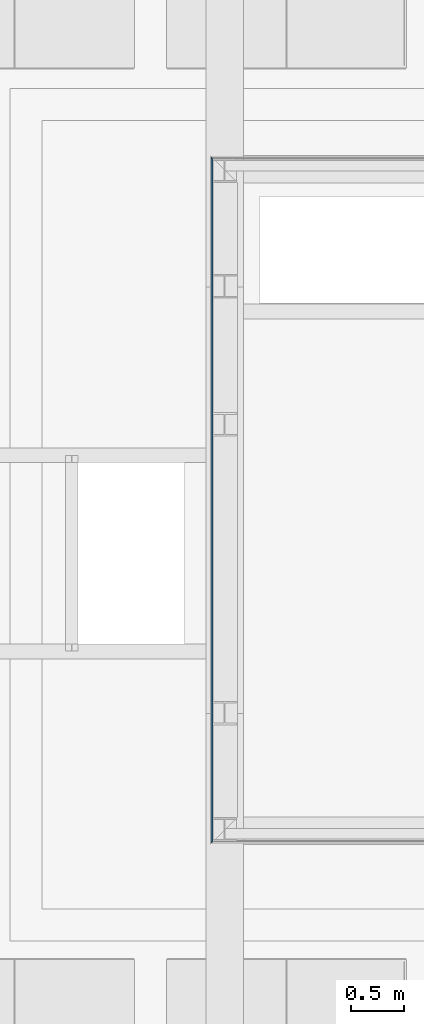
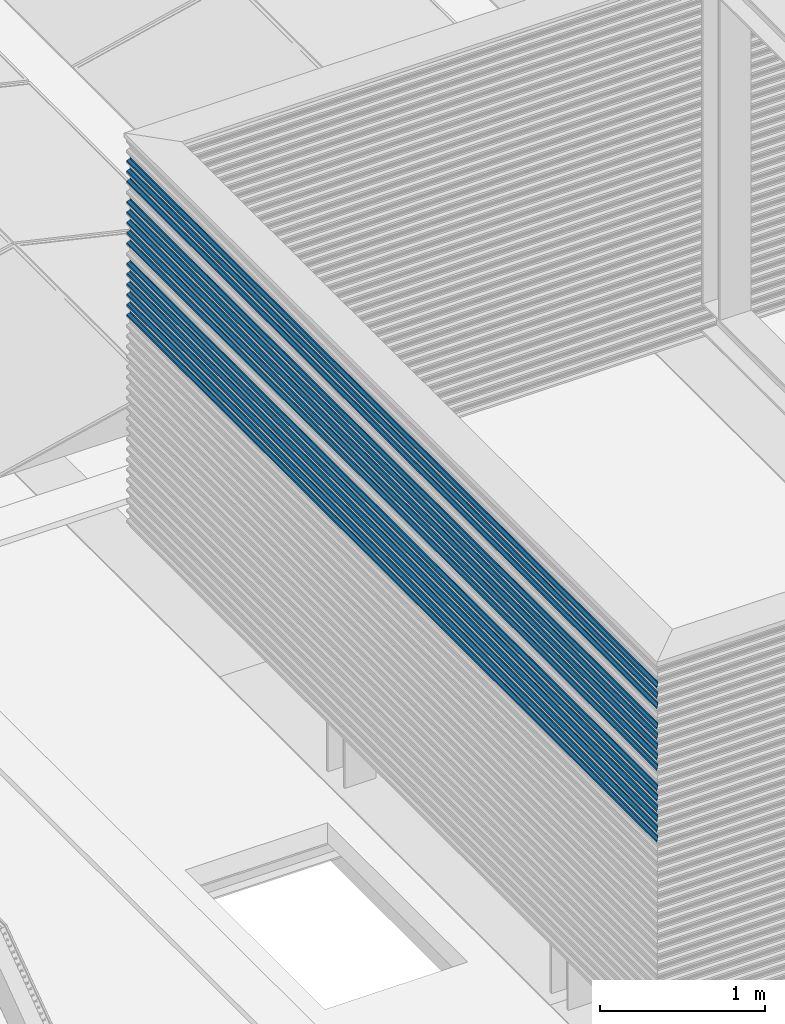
# One storey, part 27 of 63: 14 building element parts, 1 element without a shape of its own.
"""IFC2X3 building model written with IfcOpenShell, lengths in millimetres."""

from ifc_helpers import new_model, entity, si_unit, converted_unit, derived_unit, money_unit, direction, frame, origin_with_axes, place, context, subcontext, project, spatial, faceted_brep, material, type_object, element, aggregate, save


model = new_model("IFC2X3")

# Units and contexts
model_context = context("Model", 3, precision=0.01, world=origin_with_axes(), true_north=direction((0.0, 1.0)))
body_context = subcontext(model_context, "Body", "Model", "MODEL_VIEW")
ifc_project = project(units=[si_unit("LENGTHUNIT", "METRE", prefix="MILLI"), si_unit("AREAUNIT", "SQUARE_METRE"), si_unit("VOLUMEUNIT", "CUBIC_METRE"), converted_unit("PLANEANGLEUNIT", "DEGREE", entity("IfcPlaneAngleMeasure", 0.0174532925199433), si_unit("PLANEANGLEUNIT", "RADIAN"), dimensions=[0, 0, 0, 0, 0, 0, 0]), money_unit("EUR"), converted_unit("TIMEUNIT", "Year", entity("IfcTimeMeasure", 31557600.0), si_unit("TIMEUNIT", "SECOND"), dimensions=[0, 0, 1, 0, 0, 0, 0]), si_unit("MASSUNIT", "GRAM", prefix="KILO"), si_unit("THERMODYNAMICTEMPERATUREUNIT", "DEGREE_CELSIUS"), si_unit("LUMINOUSINTENSITYUNIT", "LUMEN"), si_unit("ENERGYUNIT", "JOULE", prefix="MEGA"), derived_unit("THERMALCONDUCTANCEUNIT", [(si_unit("POWERUNIT", "WATT"), 1), (si_unit("LENGTHUNIT", "METRE"), -1), (si_unit("THERMODYNAMICTEMPERATUREUNIT", "KELVIN"), -1)]), derived_unit("SPECIFICHEATCAPACITYUNIT", [(si_unit("ENERGYUNIT", "JOULE"), 1), (si_unit("MASSUNIT", "GRAM", prefix="KILO"), -1), (si_unit("THERMODYNAMICTEMPERATUREUNIT", "KELVIN"), -1)]), derived_unit("MASSDENSITYUNIT", [(si_unit("MASSUNIT", "GRAM", prefix="KILO"), 1), (si_unit("VOLUMEUNIT", "CUBIC_METRE"), -1)])], contexts=[model_context])

# Site, building, storey
site_placement = place(None, origin_with_axes())
site = spatial("IfcSite", under=ifc_project, at=site_placement, Name="<site naam>", CompositionType="ELEMENT")
building_placement = place(site_placement, origin_with_axes())
building = spatial("IfcBuilding", under=site, at=building_placement, Name="<Naam gebouw>", CompositionType="ELEMENT")
storey_placement = place(building_placement, frame((0.0, 0.0, 12770.0), z_axis=(0.0, 0.0, 1.0), x_axis=(1.0, 0.0, 0.0)))
storey = spatial("IfcBuildingStorey", under=building, at=storey_placement, Name="04 4e verdieping", CompositionType="ELEMENT", Elevation=12770.0)

# Wall, building element parts
wall_type = type_object("IfcWallType", Name="Gevelbeplating golf 18 x 2900", PredefinedType="NOTDEFINED")
wall_placement = place(storey_placement, frame((15871.99992141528, 13218.00009009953, 299.9552842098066), z_axis=(0.0, 0.0, 1.0), x_axis=(0.0, -1.0, 0.0)))
wall = element("IfcWall", 1, at=wall_placement, inside=storey, type_object=wall_type, Name="47_Binnenwand_Gevelbeplating")
ifc_material = material(Name="gevelafwerking type 3 - Aluminium RAL1036")
building_element_part_1_placement = place(wall_placement, origin_with_axes())
building_element_part_1 = element("IfcBuildingElementPart", 2, at=building_element_part_1_placement, material=ifc_material, Name="gevelafwerking type 3 - Aluminium RAL1036", context=body_context, shape_type="Brep", body=[
    faceted_brep([(15.62921524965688, 15.62921524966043, 1737.315511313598), (17.99995237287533, 17.99995237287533, 1747.999999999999), (6418.000216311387, 17.99995237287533, 1747.999999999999), (6420.370953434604, 15.62921524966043, 1737.315511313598), (17.99995237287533, 16.999949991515, 1747.999999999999), (15.62921524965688, 14.54417602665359, 1737.315511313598), (15.69995553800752, 14.7751494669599, 1737.634325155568), (6418.000216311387, 16.9999499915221, 1747.999999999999), (6420.370953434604, 14.54417602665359, 1737.315511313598), (6420.300213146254, 14.7751494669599, 1737.634325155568), (9.041536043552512, 9.041536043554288, 1728.575878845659), (6426.95863264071, 9.041536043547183, 1728.575878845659), (9.041536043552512, 8.2094919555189, 1728.575878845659), (9.398086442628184, 8.555204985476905, 1729.048901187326), (6426.602082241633, 8.555204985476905, 1729.048901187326), (6426.95863264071, 8.2094919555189, 1728.575878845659), (3.11643076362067, 3.116430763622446, 1720.112325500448), (6432.883737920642, 3.116430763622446, 1720.112325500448), (3.11643076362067, 2.188178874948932, 1720.112325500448), (3.340087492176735, 2.257311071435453, 1720.431801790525), (6432.660081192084, 2.257311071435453, 1720.431801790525), (6432.883737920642, 2.188178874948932, 1720.112325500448), (0.9999523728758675, 0.9999523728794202, 1709.999999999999), (6435.000216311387, 0.9999523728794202, 1709.999999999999), (0.9999523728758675, -4.762712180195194e-05, 1709.999999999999), (6435.000216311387, -4.762713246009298e-05, 1709.999999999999)], [[[0, 1, 2, 3]], [[4, 1, 0, 5, 6]], [[1, 4, 7, 2]], [[8, 3, 2, 7, 9]], [[10, 0, 3, 11]], [[0, 10, 12, 13, 5]], [[5, 13, 14, 8, 9, 6]], [[4, 6, 9, 7]], [[15, 11, 3, 8, 14]], [[16, 10, 11, 17]], [[10, 16, 18, 19, 12]], [[12, 19, 20, 15, 14, 13]], [[21, 17, 11, 15, 20]], [[22, 16, 17, 23]], [[16, 22, 24, 18]], [[18, 24, 25, 21, 20, 19]], [[25, 23, 17, 21]], [[24, 22, 23, 25]]]),
])
building_element_part_2_placement = place(wall_placement, origin_with_axes())
building_element_part_2 = element("IfcBuildingElementPart", 3, at=building_element_part_2_placement, material=ifc_material, Name="gevelafwerking type 3 - Aluminium RAL1036", context=body_context, shape_type="Brep", body=[
    faceted_brep([(15.62921286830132, 15.62921286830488, 1813.315511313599), (17.99994999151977, 17.99994999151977, 1824.0), (6418.000218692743, 17.99994999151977, 1824.0), (6420.370955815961, 15.62921286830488, 1813.315511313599), (17.99994999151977, 16.99994761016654, 1824.0), (15.62921286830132, 14.54418552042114, 1813.315511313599), (15.69994951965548, 14.77514708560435, 1813.634308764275), (6418.000218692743, 16.99994761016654, 1824.0), (6420.370955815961, 14.54418552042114, 1813.315511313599), (6420.300219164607, 14.77514708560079, 1813.634308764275), (9.041533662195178, 9.04153366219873, 1804.575878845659), (6426.958635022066, 9.04153366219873, 1804.575878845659), (9.041533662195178, 8.209501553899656, 1804.575878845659), (9.398071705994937, 8.555202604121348, 1805.048884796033), (6426.602096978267, 8.555202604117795, 1805.048884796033), (6426.958635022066, 8.209501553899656, 1804.575878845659), (3.116428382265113, 3.116428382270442, 1796.112325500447), (6432.883740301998, 3.116428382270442, 1796.112325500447), (3.116428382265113, 2.188180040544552, 1796.112325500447), (3.340073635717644, 2.257308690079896, 1796.431785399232), (6432.660095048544, 2.257308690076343, 1796.431785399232), (6432.883740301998, 2.188180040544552, 1796.112325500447), (0.9999499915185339, 0.999949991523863, 1786.0), (6435.000218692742, 0.999949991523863, 1786.0), (0.9999499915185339, -5.000847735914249e-05, 1786.0), (6435.000218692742, -5.000848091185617e-05, 1786.0)], [[[0, 1, 2, 3]], [[4, 1, 0, 5, 6]], [[1, 4, 7, 2]], [[8, 3, 2, 7, 9]], [[10, 0, 3, 11]], [[0, 10, 12, 13, 5]], [[5, 13, 14, 8, 9, 6]], [[4, 6, 9, 7]], [[15, 11, 3, 8, 14]], [[16, 10, 11, 17]], [[10, 16, 18, 19, 12]], [[12, 19, 20, 15, 14, 13]], [[21, 17, 11, 15, 20]], [[22, 16, 17, 23]], [[16, 22, 24, 18]], [[18, 24, 25, 21, 20, 19]], [[25, 23, 17, 21]], [[24, 22, 23, 25]]]),
])
building_element_part_3_placement = place(wall_placement, origin_with_axes())
building_element_part_3 = element("IfcBuildingElementPart", 4, at=building_element_part_3_placement, material=ifc_material, Name="gevelafwerking type 3 - Aluminium RAL1036", context=body_context, shape_type="Brep", body=[
    faceted_brep([(15.62921048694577, 15.62921048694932, 1965.3155113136), (17.99994761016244, 17.99994761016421, 1975.999999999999), (6418.000221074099, 17.99994761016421, 1975.999999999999), (6420.370958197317, 15.62921048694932, 1965.3155113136), (17.99994761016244, 16.99994522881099, 1975.999999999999), (15.62921048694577, 14.54417558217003, 1965.3155113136), (15.699949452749, 14.77514470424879, 1965.634319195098), (6418.000221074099, 16.99994522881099, 1975.999999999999), (6420.370958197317, 14.54417558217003, 1965.3155113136), (6420.300219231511, 14.77514470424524, 1965.634319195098), (9.04153128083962, 9.041531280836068, 1956.575878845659), (6426.958637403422, 9.041531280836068, 1956.575878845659), (9.04153128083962, 8.209491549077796, 1956.575878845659), (9.398077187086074, 8.55520022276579, 1957.048895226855), (6426.602091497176, 8.555200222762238, 1957.048895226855), (6426.958637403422, 8.209491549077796, 1956.575878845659), (3.116426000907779, 3.116426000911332, 1948.112325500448), (6432.883742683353, 3.116426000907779, 1948.112325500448), (3.116426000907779, 2.188175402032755, 1948.112325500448), (3.340078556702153, 2.257306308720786, 1948.431795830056), (6432.660090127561, 2.257306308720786, 1948.431795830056), (6432.883742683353, 2.188175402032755, 1948.112325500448), (0.9999476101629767, 0.9999476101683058, 1937.999999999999), (6435.000221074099, 0.9999476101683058, 1937.999999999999), (0.9999476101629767, -5.238983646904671e-05, 1937.999999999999), (6435.000221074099, -5.238984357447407e-05, 1937.999999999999)], [[[0, 1, 2, 3]], [[4, 1, 0, 5, 6]], [[1, 4, 7, 2]], [[8, 3, 2, 7, 9]], [[10, 0, 3, 11]], [[0, 10, 12, 13, 5]], [[5, 13, 14, 8, 9, 6]], [[4, 6, 9, 7]], [[15, 11, 3, 8, 14]], [[16, 10, 11, 17]], [[10, 16, 18, 19, 12]], [[12, 19, 20, 15, 14, 13]], [[21, 17, 11, 15, 20]], [[22, 16, 17, 23]], [[16, 22, 24, 18]], [[18, 24, 25, 21, 20, 19]], [[25, 23, 17, 21]], [[24, 22, 23, 25]]]),
])
building_element_part_4_placement = place(wall_placement, origin_with_axes())
building_element_part_4 = element("IfcBuildingElementPart", 5, at=building_element_part_4_placement, material=ifc_material, Name="gevelafwerking type 3 - Aluminium RAL1036", context=body_context, shape_type="Brep", body=[
    faceted_brep([(15.62921048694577, 15.62921048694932, 1889.315511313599), (17.99994761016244, 17.99994761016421, 1900.0), (6418.000221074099, 17.99994761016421, 1900.0), (6420.370958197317, 15.62921048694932, 1889.315511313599), (17.99994761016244, 16.99994522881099, 1900.0), (15.62921048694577, 14.54416370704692, 1889.315511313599), (15.69995308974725, 14.77514470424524, 1889.634335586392), (6418.000221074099, 16.99994522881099, 1900.0), (6420.370958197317, 14.54416370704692, 1889.315511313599), (6420.300215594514, 14.77514470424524, 1889.634335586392), (9.04153128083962, 9.041531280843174, 1880.57587884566), (6426.958637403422, 9.041531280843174, 1880.57587884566), (9.04153128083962, 8.20947956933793, 1880.57587884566), (9.39808954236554, 8.555200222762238, 1881.048911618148), (6426.602079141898, 8.555200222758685, 1881.048911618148), (6426.958637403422, 8.20947956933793, 1880.57587884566), (3.116426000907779, 3.116426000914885, 1872.112325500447), (6432.883742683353, 3.116426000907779, 1872.112325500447), (3.116426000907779, 2.188181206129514, 1872.112325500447), (3.340059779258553, 2.257306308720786, 1872.431769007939), (6432.660108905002, 2.257306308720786, 1872.431769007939), (6432.883742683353, 2.188181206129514, 1872.112325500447), (0.9999476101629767, 0.9999476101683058, 1862.0), (6435.000221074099, 0.9999476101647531, 1862.0), (0.9999476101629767, -5.238983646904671e-05, 1862.0), (6435.000221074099, -5.238983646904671e-05, 1862.0)], [[[0, 1, 2, 3]], [[4, 1, 0, 5, 6]], [[1, 4, 7, 2]], [[8, 3, 2, 7, 9]], [[10, 0, 3, 11]], [[0, 10, 12, 13, 5]], [[5, 13, 14, 8, 9, 6]], [[4, 6, 9, 7]], [[15, 11, 3, 8, 14]], [[16, 10, 11, 17]], [[10, 16, 18, 19, 12]], [[12, 19, 20, 15, 14, 13]], [[21, 17, 11, 15, 20]], [[22, 16, 17, 23]], [[16, 22, 24, 18]], [[18, 24, 25, 21, 20, 19]], [[25, 23, 17, 21]], [[24, 22, 23, 25]]]),
])
building_element_part_5_placement = place(wall_placement, origin_with_axes())
building_element_part_5 = element("IfcBuildingElementPart", 6, at=building_element_part_5_placement, material=ifc_material, Name="gevelafwerking type 3 - Aluminium RAL1036", context=body_context, shape_type="Brep", body=[
    faceted_brep([(15.62920572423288, 15.6292057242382, 2117.315511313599), (17.99994284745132, 17.9999428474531, 2127.999999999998), (6418.00022583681, 17.9999428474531, 2127.999999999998), (6420.370962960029, 15.62920572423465, 2117.315511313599), (17.99994284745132, 16.99994046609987, 2127.999999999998), (15.62920572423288, 14.54416326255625, 2117.315511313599), (15.69994700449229, 14.77513994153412, 2117.63432962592), (6418.00022583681, 16.99994046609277, 2127.999999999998), (6420.30022167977, 14.77513994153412, 2117.63432962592), (6420.370962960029, 14.54416326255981, 2117.315511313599), (9.041526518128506, 9.04152651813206, 2108.57587884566), (6426.958642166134, 9.041526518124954, 2108.57587884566), (9.041526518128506, 8.209479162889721, 2108.57587884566), (9.39808028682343, 8.555195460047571, 2109.048905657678), (6426.602088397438, 8.555195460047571, 2109.048905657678), (6426.958642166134, 8.209479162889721, 2108.57587884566), (3.116421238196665, 3.116421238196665, 2100.112325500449), (6432.883747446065, 3.116421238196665, 2100.112325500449), (3.116421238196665, 2.188168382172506, 2100.112325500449), (3.340081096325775, 2.257301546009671, 2100.431806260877), (6432.660087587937, 2.257301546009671, 2100.431806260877), (6432.883747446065, 2.188168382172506, 2100.112325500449), (0.9999428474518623, 0.9999428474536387, 2090.0), (6435.000225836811, 0.9999428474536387, 2090.0), (0.9999428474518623, -5.71525475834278e-05, 2090.0), (6435.000225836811, -5.71525475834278e-05, 2090.0)], [[[0, 1, 2, 3]], [[4, 1, 0, 5, 6]], [[1, 4, 7, 2]], [[3, 2, 7, 8, 9]], [[10, 0, 3, 11]], [[0, 10, 12, 13, 5]], [[5, 13, 14, 9, 8, 6]], [[4, 6, 8, 7]], [[11, 3, 9, 14, 15]], [[16, 10, 11, 17]], [[10, 16, 18, 19, 12]], [[12, 19, 20, 15, 14, 13]], [[17, 11, 15, 20, 21]], [[22, 16, 17, 23]], [[16, 22, 24, 18]], [[18, 24, 25, 21, 20, 19]], [[23, 17, 21, 25]], [[24, 22, 23, 25]]]),
])
building_element_part_6_placement = place(wall_placement, origin_with_axes())
building_element_part_6 = element("IfcBuildingElementPart", 7, at=building_element_part_6_placement, material=ifc_material, Name="gevelafwerking type 3 - Aluminium RAL1036", context=body_context, shape_type="Brep", body=[
    faceted_brep([(15.62922001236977, 15.62922001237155, 1585.315511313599), (17.99995713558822, 17.99995713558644, 1596.0), (6418.000211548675, 17.99995713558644, 1596.0), (6420.370948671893, 15.62922001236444, 1585.315511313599), (17.99995713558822, 16.99995475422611, 1596.0), (15.62922001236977, 14.54418834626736, 1585.315511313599), (15.69995798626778, 14.77515422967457, 1585.634314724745), (6418.000211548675, 16.99995475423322, 1596.0), (6420.370948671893, 14.54418834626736, 1585.315511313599), (6420.300210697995, 14.77515422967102, 1585.634314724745), (9.041540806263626, 9.041540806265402, 1576.575878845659), (6426.958627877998, 9.041540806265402, 1576.575878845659), (9.041540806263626, 8.20950434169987, 1576.575878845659), (9.398083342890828, 8.55520974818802, 1577.048890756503), (6426.60208534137, 8.55520974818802, 1577.048890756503), (6426.958627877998, 8.20950434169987, 1576.575878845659), (3.116435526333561, 3.116435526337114, 1568.112325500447), (6432.88373315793, 3.116435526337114, 1568.112325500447), (3.116435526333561, 2.188185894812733, 1568.112325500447), (3.34008495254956, 2.25731583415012, 1568.431791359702), (6432.660083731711, 2.257315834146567, 1568.431791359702), (6432.88373315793, 2.188185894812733, 1568.112325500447), (0.9999571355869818, 0.9999571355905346, 1558.0), (6435.000211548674, 0.9999571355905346, 1558.0), (0.9999571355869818, -4.286440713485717e-05, 1558.0), (6435.000211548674, -4.286441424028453e-05, 1558.0)], [[[0, 1, 2, 3]], [[4, 1, 0, 5, 6]], [[1, 4, 7, 2]], [[8, 3, 2, 7, 9]], [[10, 0, 3, 11]], [[0, 10, 12, 13, 5]], [[5, 13, 14, 8, 9, 6]], [[4, 6, 9, 7]], [[15, 11, 3, 8, 14]], [[16, 10, 11, 17]], [[10, 16, 18, 19, 12]], [[12, 19, 20, 15, 14, 13]], [[21, 17, 11, 15, 20]], [[22, 16, 17, 23]], [[16, 22, 24, 18]], [[18, 24, 25, 21, 20, 19]], [[25, 23, 17, 21]], [[24, 22, 23, 25]]]),
])
building_element_part_7_placement = place(wall_placement, origin_with_axes())
building_element_part_7 = element("IfcBuildingElementPart", 8, at=building_element_part_7_placement, material=ifc_material, Name="gevelafwerking type 3 - Aluminium RAL1036", context=body_context, shape_type="Brep", body=[
    faceted_brep([(15.62920334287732, 15.62920334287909, 2193.315511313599), (17.99994046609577, 17.99994046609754, 2203.999999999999), (6418.000228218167, 17.99994046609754, 2203.999999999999), (6420.370965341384, 15.62920334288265, 2193.315511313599), (17.99994046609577, 16.99993808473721, 2203.999999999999), (15.62920334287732, 14.54417275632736, 2193.315511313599), (15.69994098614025, 14.77513756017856, 2193.634313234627), (6418.000228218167, 16.99993808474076, 2203.999999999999), (6420.300227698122, 14.77513756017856, 2193.634313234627), (6420.370965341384, 14.54417275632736, 2193.315511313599), (9.041524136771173, 9.041524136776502, 2184.575878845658), (6426.95864454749, 9.041524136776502, 2184.575878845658), (9.041524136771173, 8.20948876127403, 2184.575878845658), (9.398065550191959, 8.555193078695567, 2185.048889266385), (6426.60210313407, 8.555193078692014, 2185.048889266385), (6426.95864454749, 8.20948876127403, 2184.575878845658), (3.116418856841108, 3.116418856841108, 2176.112325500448), (6432.883749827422, 3.116418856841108, 2176.112325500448), (3.116418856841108, 2.188169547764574, 2176.112325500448), (3.340067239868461, 2.257299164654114, 2176.431789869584), (6432.660101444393, 2.257299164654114, 2176.431789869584), (6432.883749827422, 2.188169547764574, 2176.112325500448), (0.9999404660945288, 0.9999404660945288, 2165.999999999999), (6435.000228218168, 0.9999404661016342, 2165.999999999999), (0.9999404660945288, -5.953390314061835e-05, 2165.999999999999), (6435.000228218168, -5.953390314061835e-05, 2165.999999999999)], [[[0, 1, 2, 3]], [[4, 1, 0, 5, 6]], [[1, 4, 7, 2]], [[3, 2, 7, 8, 9]], [[10, 0, 3, 11]], [[0, 10, 12, 13, 5]], [[5, 13, 14, 9, 8, 6]], [[4, 6, 8, 7]], [[11, 3, 9, 14, 15]], [[16, 10, 11, 17]], [[10, 16, 18, 19, 12]], [[12, 19, 20, 15, 14, 13]], [[17, 11, 15, 20, 21]], [[22, 16, 17, 23]], [[16, 22, 24, 18]], [[18, 24, 25, 21, 20, 19]], [[23, 17, 21, 25]], [[24, 22, 23, 25]]]),
])
building_element_part_8_placement = place(wall_placement, origin_with_axes())
building_element_part_8 = element("IfcBuildingElementPart", 9, at=building_element_part_8_placement, material=ifc_material, Name="gevelafwerking type 3 - Aluminium RAL1036", context=body_context, shape_type="Brep", body=[
    faceted_brep([(15.62919858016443, 15.62919858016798, 2345.315511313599), (17.99993570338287, 17.99993570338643, 2356.0), (6418.000232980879, 17.99993570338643, 2356.0), (6420.370970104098, 15.62919858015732, 2345.315511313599), (17.99993570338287, 16.99993332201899, 2356.0), (15.62919858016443, 14.54416043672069, 2345.315511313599), (15.69993853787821, 14.77513279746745, 2345.63432366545), (6418.000232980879, 16.9999333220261, 2356.0), (6420.300230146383, 14.77513279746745, 2345.63432366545), (6420.370970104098, 14.54416043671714, 2345.315511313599), (9.041519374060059, 9.041519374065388, 2336.575878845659), (6426.958649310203, 9.041519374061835, 2336.575878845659), (9.041519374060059, 8.209476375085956, 2336.575878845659), (9.398068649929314, 8.5551883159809, 2337.048899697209), (6426.602100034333, 8.5551883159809, 2337.048899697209), (6426.958649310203, 8.209476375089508, 2336.575878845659), (3.116414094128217, 3.116414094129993, 2328.112325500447), (6432.883754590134, 3.116414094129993, 2328.112325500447), (3.116414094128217, 2.188162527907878, 2328.112325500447), (3.340069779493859, 2.257294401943, 2328.431800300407), (6432.660098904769, 2.257294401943, 2328.431800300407), (6432.883754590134, 2.188162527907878, 2328.112325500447), (0.9999357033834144, 0.9999357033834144, 2318.0), (6435.000232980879, 0.9999357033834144, 2318.0), (0.9999357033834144, -6.429661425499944e-05, 2318.0), (6435.000232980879, -6.429661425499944e-05, 2318.0)], [[[0, 1, 2, 3]], [[4, 1, 0, 5, 6]], [[1, 4, 7, 2]], [[3, 2, 7, 8, 9]], [[10, 0, 3, 11]], [[0, 10, 12, 13, 5]], [[5, 13, 14, 9, 8, 6]], [[4, 6, 8, 7]], [[11, 3, 9, 14, 15]], [[16, 10, 11, 17]], [[10, 16, 18, 19, 12]], [[12, 19, 20, 15, 14, 13]], [[17, 11, 15, 20, 21]], [[22, 16, 17, 23]], [[16, 22, 24, 18]], [[18, 24, 25, 21, 20, 19]], [[23, 17, 21, 25]], [[24, 22, 23, 25]]]),
])
building_element_part_9_placement = place(wall_placement, origin_with_axes())
building_element_part_9 = element("IfcBuildingElementPart", 10, at=building_element_part_9_placement, material=ifc_material, Name="gevelafwerking type 3 - Aluminium RAL1036", context=body_context, shape_type="Brep", body=[
    faceted_brep([(15.62920096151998, 15.62920096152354, 2269.315511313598), (17.99993808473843, 17.99993808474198, 2280.0), (6418.000230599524, 17.99993808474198, 2280.0), (6420.370967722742, 15.62920096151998, 2269.315511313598), (17.99993808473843, 16.9999357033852, 2280.0), (15.62920096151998, 14.54418225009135, 2269.315511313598), (15.69993496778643, 14.77513517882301, 2269.634296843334), (6418.000230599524, 16.9999357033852, 2280.0), (6420.370967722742, 14.54418225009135, 2269.315511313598), (6420.300233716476, 14.77513517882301, 2269.634296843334), (9.041521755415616, 9.04152175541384, 2260.575878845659), (6426.958646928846, 9.04152175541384, 2260.575878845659), (9.041521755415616, 8.209498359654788, 2260.575878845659), (9.398050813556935, 8.555190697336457, 2261.048872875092), (6426.602117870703, 8.555190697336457, 2261.048872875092), (6426.958646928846, 8.209498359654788, 2260.575878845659), (3.116416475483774, 3.116416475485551, 2252.112325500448), (6432.883752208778, 3.116416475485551, 2252.112325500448), (3.116416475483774, 2.188170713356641, 2252.112325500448), (3.340053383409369, 2.257296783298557, 2252.431773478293), (6432.660115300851, 2.257296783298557, 2252.431773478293), (6432.883752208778, 2.188170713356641, 2252.112325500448), (0.9999380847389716, 0.9999380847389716, 2241.999999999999), (6435.000230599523, 0.9999380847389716, 2241.999999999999), (0.9999380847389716, -6.19152586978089e-05, 2241.999999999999), (6435.000230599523, -6.19152586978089e-05, 2241.999999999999)], [[[0, 1, 2, 3]], [[4, 1, 0, 5, 6]], [[1, 4, 7, 2]], [[8, 3, 2, 7, 9]], [[10, 0, 3, 11]], [[0, 10, 12, 13, 5]], [[5, 13, 14, 8, 9, 6]], [[4, 6, 9, 7]], [[15, 11, 3, 8, 14]], [[16, 10, 11, 17]], [[10, 16, 18, 19, 12]], [[12, 19, 20, 15, 14, 13]], [[21, 17, 11, 15, 20]], [[22, 16, 17, 23]], [[16, 22, 24, 18]], [[18, 24, 25, 21, 20, 19]], [[25, 23, 17, 21]], [[24, 22, 23, 25]]]),
])
building_element_part_10_placement = place(wall_placement, origin_with_axes())
building_element_part_10 = element("IfcBuildingElementPart", 11, at=building_element_part_10_placement, material=ifc_material, Name="gevelafwerking type 3 - Aluminium RAL1036", context=body_context, shape_type="Brep", body=[
    faceted_brep([(15.62921763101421, 15.62921763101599, 1661.315511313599), (17.99995475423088, 17.99995475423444, 1671.999999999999), (6418.00021393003, 17.99995475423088, 1671.999999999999), (6420.370951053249, 15.62921763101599, 1661.315511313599), (17.99995475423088, 16.99995237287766, 1671.999999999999), (15.62921763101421, 14.54419784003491, 1661.315511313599), (15.69995196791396, 14.77515184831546, 1661.634298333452), (6418.00021393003, 16.99995237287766, 1671.999999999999), (6420.300216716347, 14.77515184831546, 1661.634298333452), (6420.370951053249, 14.54419784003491, 1661.315511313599), (9.041538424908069, 9.041538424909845, 1652.57587884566), (6426.958630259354, 9.041538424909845, 1652.57587884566), (9.041538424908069, 8.209513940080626, 1652.57587884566), (9.398068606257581, 8.555207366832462, 1653.04887436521), (6426.602100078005, 8.555207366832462, 1653.04887436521), (6426.958630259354, 8.209513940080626, 1652.57587884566), (3.116433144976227, 3.116433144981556, 1644.112325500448), (6432.883735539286, 3.116433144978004, 1644.112325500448), (3.116433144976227, 2.188187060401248, 1644.112325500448), (3.340071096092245, 2.25731345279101, 1644.431774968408), (6432.660097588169, 2.25731345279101, 1644.431774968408), (6432.883735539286, 2.188187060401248, 1644.112325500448), (0.9999547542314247, 0.9999547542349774, 1633.999999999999), (6435.00021393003, 0.9999547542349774, 1633.999999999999), (0.9999547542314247, -4.52457662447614e-05, 1633.999999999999), (6435.00021393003, -4.52457662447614e-05, 1633.999999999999)], [[[0, 1, 2, 3]], [[4, 1, 0, 5, 6]], [[1, 4, 7, 2]], [[3, 2, 7, 8, 9]], [[10, 0, 3, 11]], [[0, 10, 12, 13, 5]], [[5, 13, 14, 9, 8, 6]], [[4, 6, 8, 7]], [[11, 3, 9, 14, 15]], [[16, 10, 11, 17]], [[10, 16, 18, 19, 12]], [[12, 19, 20, 15, 14, 13]], [[17, 11, 15, 20, 21]], [[22, 16, 17, 23]], [[16, 22, 24, 18]], [[18, 24, 25, 21, 20, 19]], [[23, 17, 21, 25]], [[24, 22, 23, 25]]]),
])
building_element_part_11_placement = place(wall_placement, origin_with_axes())
building_element_part_11 = element("IfcBuildingElementPart", 12, at=building_element_part_11_placement, material=ifc_material, Name="gevelafwerking type 3 - Aluminium RAL1036", context=body_context, shape_type="Brep", body=[
    faceted_brep([(15.62919619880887, 15.62919619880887, 2421.315511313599), (17.99993332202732, 17.99993332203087, 2432.0), (6418.000235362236, 17.99993332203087, 2432.0), (6420.370972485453, 15.62919619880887, 2421.315511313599), (17.99993332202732, 16.99993094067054, 2432.0), (15.62919619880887, 14.54416993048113, 2421.315511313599), (15.69993251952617, 14.77513041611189, 2421.634307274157), (6418.000235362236, 16.99993094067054, 2432.0), (6420.300236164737, 14.77513041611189, 2421.634307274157), (6420.370972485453, 14.54416993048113, 2421.315511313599), (9.041516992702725, 9.041516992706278, 2412.57587884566), (6426.958651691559, 9.041516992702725, 2412.57587884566), (9.041516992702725, 8.209485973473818, 2412.57587884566), (9.39805391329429, 8.555185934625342, 2413.048883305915), (6426.602114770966, 8.555185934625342, 2413.048883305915), (6426.958651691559, 8.209485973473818, 2412.57587884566), (3.11641171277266, 3.116411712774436, 2404.112325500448), (6432.883756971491, 3.116411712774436, 2404.112325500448), (3.11641171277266, 2.188163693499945, 2404.112325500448), (3.340055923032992, 2.257292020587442, 2404.431783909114), (6432.660112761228, 2.257292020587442, 2404.431783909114), (6432.883756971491, 2.188163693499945, 2404.112325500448), (0.9999333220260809, 0.9999333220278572, 2394.0), (6435.000235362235, 0.9999333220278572, 2394.0), (0.9999333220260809, -6.667796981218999e-05, 2394.0), (6435.000235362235, -6.667796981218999e-05, 2394.0)], [[[0, 1, 2, 3]], [[4, 1, 0, 5, 6]], [[1, 4, 7, 2]], [[3, 2, 7, 8, 9]], [[10, 0, 3, 11]], [[0, 10, 12, 13, 5]], [[5, 13, 14, 9, 8, 6]], [[4, 6, 8, 7]], [[11, 3, 9, 14, 15]], [[16, 10, 11, 17]], [[10, 16, 18, 19, 12]], [[12, 19, 20, 15, 14, 13]], [[17, 11, 15, 20, 21]], [[22, 16, 17, 23]], [[16, 22, 24, 18]], [[18, 24, 25, 21, 20, 19]], [[23, 17, 21, 25]], [[24, 22, 23, 25]]]),
])
building_element_part_12_placement = place(wall_placement, origin_with_axes())
building_element_part_12 = element("IfcBuildingElementPart", 13, at=building_element_part_12_placement, material=ifc_material, Name="gevelafwerking type 3 - Aluminium RAL1036", context=body_context, shape_type="Brep", body=[
    faceted_brep([(15.62919143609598, 15.62919143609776, 2573.315511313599), (17.99992855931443, 17.99992855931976, 2584.0), (6418.000240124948, 17.99992855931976, 2584.0), (6420.370977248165, 15.62919143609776, 2573.315511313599), (17.99992855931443, 16.99992617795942, 2584.0), (15.62919143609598, 14.54415761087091, 2573.315511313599), (15.69993007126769, 14.77512565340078, 2573.634317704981), (6418.000240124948, 16.99992617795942, 2584.0), (6420.300238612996, 14.77512565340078, 2573.634317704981), (6420.370977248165, 14.54415761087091, 2573.315511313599), (9.04151222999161, 9.04151222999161, 2564.575878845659), (6426.958656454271, 9.04151222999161, 2564.575878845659), (9.04151222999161, 8.209473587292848, 2564.575878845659), (9.398057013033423, 8.555181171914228, 2565.048893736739), (6426.602111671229, 8.555181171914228, 2565.048893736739), (6426.958656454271, 8.209473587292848, 2564.575878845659), (3.116406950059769, 3.116406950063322, 2556.112325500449), (6432.883761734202, 3.116406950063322, 2556.112325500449), (3.116406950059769, 2.188156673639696, 2556.112325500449), (3.340058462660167, 2.257287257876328, 2556.431794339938), (6432.660110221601, 2.257287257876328, 2556.431794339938), (6432.883761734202, 2.188156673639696, 2556.112325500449), (0.9999285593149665, 0.9999285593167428, 2546.0), (6435.000240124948, 0.9999285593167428, 2546.0), (0.9999285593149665, -7.144068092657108e-05, 2546.0), (6435.000240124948, -7.144068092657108e-05, 2546.0)], [[[0, 1, 2, 3]], [[4, 1, 0, 5, 6]], [[1, 4, 7, 2]], [[3, 2, 7, 8, 9]], [[10, 0, 3, 11]], [[0, 10, 12, 13, 5]], [[5, 13, 14, 9, 8, 6]], [[4, 6, 8, 7]], [[11, 3, 9, 14, 15]], [[16, 10, 11, 17]], [[10, 16, 18, 19, 12]], [[12, 19, 20, 15, 14, 13]], [[17, 11, 15, 20, 21]], [[22, 16, 17, 23]], [[16, 22, 24, 18]], [[18, 24, 25, 21, 20, 19]], [[23, 17, 21, 25]], [[24, 22, 23, 25]]]),
])
building_element_part_13_placement = place(wall_placement, origin_with_axes())
building_element_part_13 = element("IfcBuildingElementPart", 14, at=building_element_part_13_placement, material=ifc_material, Name="gevelafwerking type 3 - Aluminium RAL1036", context=body_context, shape_type="Brep", body=[
    faceted_brep([(15.62918905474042, 15.6291890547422, 2725.315511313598), (17.99992617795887, 17.9999261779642, 2735.999999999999), (6418.000242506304, 17.9999261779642, 2735.999999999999), (6420.370979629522, 15.6291890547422, 2725.315511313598), (17.99992617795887, 16.99992379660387, 2735.999999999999), (15.62918905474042, 14.54414767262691, 2725.315511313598), (15.69993000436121, 14.77512327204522, 2725.634328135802), (6418.000242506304, 16.99992379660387, 2735.999999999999), (6420.3002386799, 14.77512327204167, 2725.634328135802), (6420.370979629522, 14.54414767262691, 2725.315511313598), (9.041509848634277, 9.041509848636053, 2716.575878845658), (6426.958658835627, 9.041509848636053, 2716.575878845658), (9.041509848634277, 8.209463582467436, 2716.575878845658), (9.398062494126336, 8.55517879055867, 2717.048904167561), (6426.602106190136, 8.55517879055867, 2717.048904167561), (6426.958658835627, 8.209463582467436, 2716.575878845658), (3.116404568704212, 3.116404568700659, 2708.112325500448), (6432.883764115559, 3.116404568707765, 2708.112325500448), (3.116404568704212, 2.188152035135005, 2708.112325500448), (3.340063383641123, 2.257284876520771, 2708.431804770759), (6432.660105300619, 2.257284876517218, 2708.431804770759), (6432.883764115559, 2.188152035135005, 2708.112325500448), (0.999926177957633, 0.9999261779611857, 2697.999999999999), (6435.000242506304, 0.9999261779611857, 2697.999999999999), (0.999926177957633, -7.382203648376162e-05, 2697.999999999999), (6435.000242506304, -7.38220400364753e-05, 2697.999999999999)], [[[0, 1, 2, 3]], [[4, 1, 0, 5, 6]], [[1, 4, 7, 2]], [[3, 2, 7, 8, 9]], [[10, 0, 3, 11]], [[0, 10, 12, 13, 5]], [[5, 13, 14, 9, 8, 6]], [[4, 6, 8, 7]], [[11, 3, 9, 14, 15]], [[16, 10, 11, 17]], [[10, 16, 18, 19, 12]], [[12, 19, 20, 15, 14, 13]], [[17, 11, 15, 20, 21]], [[22, 16, 17, 23]], [[16, 22, 24, 18]], [[18, 24, 25, 21, 20, 19]], [[23, 17, 21, 25]], [[24, 22, 23, 25]]]),
])
building_element_part_14_placement = place(wall_placement, origin_with_axes())
building_element_part_14 = element("IfcBuildingElementPart", 15, at=building_element_part_14_placement, material=ifc_material, Name="gevelafwerking type 3 - Aluminium RAL1036", context=body_context, shape_type="Brep", body=[
    faceted_brep([(15.62918905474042, 15.6291890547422, 2649.315511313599), (17.99992617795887, 17.99992617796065, 2659.999999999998), (6418.000242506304, 17.99992617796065, 2659.999999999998), (6420.370979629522, 15.6291890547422, 2649.315511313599), (17.99992617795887, 16.99992379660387, 2659.999999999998), (15.62918905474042, 14.54416710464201, 2649.315511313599), (15.69992405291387, 14.77512327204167, 2649.634301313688), (6418.000242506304, 16.99992379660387, 2659.999999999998), (6420.370979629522, 14.54416710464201, 2649.315511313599), (6420.300244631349, 14.77512327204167, 2649.634301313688), (9.041509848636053, 9.041509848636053, 2640.57587884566), (6426.958658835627, 9.041509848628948, 2640.57587884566), (9.041509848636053, 8.209483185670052, 2640.57587884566), (9.398042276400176, 8.555178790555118, 2641.048877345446), (6426.602126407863, 8.555178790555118, 2641.048877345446), (6426.958658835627, 8.209483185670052, 2640.57587884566), (3.116404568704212, 3.116404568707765, 2632.112325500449), (6432.883764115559, 3.116404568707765, 2632.112325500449), (3.116404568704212, 2.188157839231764, 2632.112325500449), (3.340044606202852, 2.257284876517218, 2632.431777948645), (6432.660124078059, 2.257284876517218, 2632.431777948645), (6432.883764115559, 2.188157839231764, 2632.112325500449), (0.999926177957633, 0.9999261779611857, 2622.0), (6435.000242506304, 0.9999261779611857, 2622.0), (0.999926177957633, -7.382203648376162e-05, 2622.0), (6435.000242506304, -7.38220400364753e-05, 2622.0)], [[[0, 1, 2, 3]], [[4, 1, 0, 5, 6]], [[1, 4, 7, 2]], [[8, 3, 2, 7, 9]], [[10, 0, 3, 11]], [[0, 10, 12, 13, 5]], [[5, 13, 14, 8, 9, 6]], [[4, 6, 9, 7]], [[15, 11, 3, 8, 14]], [[16, 10, 11, 17]], [[10, 16, 18, 19, 12]], [[12, 19, 20, 15, 14, 13]], [[21, 17, 11, 15, 20]], [[22, 16, 17, 23]], [[16, 22, 24, 18]], [[18, 24, 25, 21, 20, 19]], [[25, 23, 17, 21]], [[24, 22, 23, 25]]]),
])
aggregate(wall, [building_element_part_1, building_element_part_2, building_element_part_3, building_element_part_4, building_element_part_5, building_element_part_6, building_element_part_7, building_element_part_8, building_element_part_9, building_element_part_10, building_element_part_11, building_element_part_12, building_element_part_13, building_element_part_14])

save(model, "model.ifc")
